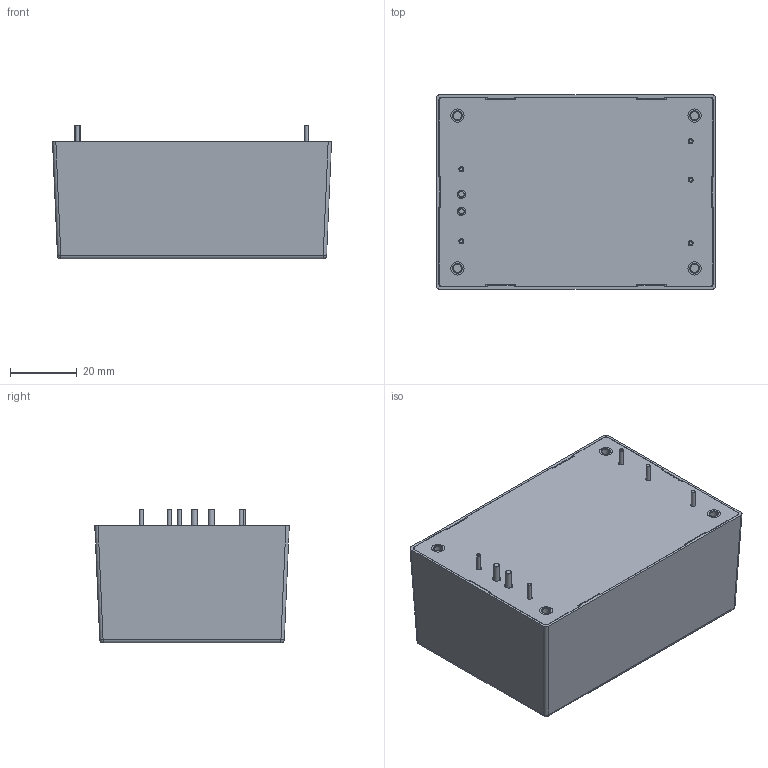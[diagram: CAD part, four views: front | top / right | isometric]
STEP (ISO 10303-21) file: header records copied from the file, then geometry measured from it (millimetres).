
FILE_DESCRIPTION(/* description */ (''),/* implementation_level */ '2;1');
FILE_NAME(/* name */ 'D:\Inventor\MQCS100_MQF120\MQCS100.stp',/* time_stamp */ '2022-05-27T14:10:13+08:00',/* author */ ('peter'),/* organization */ (''),/* preprocessor_version */ 'ST-DEVELOPER v15.2',/* originating_system */ 'Autodesk Inventor 2014',/* authorisation */ '');
FILE_SCHEMA (('AUTOMOTIVE_DESIGN { 1 0 10303 214 3 1 1 }'));
Products named in the file (22): TOP CASE _ 3.3 x 2.3 x 1.38 inch; BOT CASE _ 3.3 x 2.3 x 1.38 inch; M3 x 5 mm; PCB _ MQC100; HEATSINK X1; TO-220FP; SCREW PH M3_5mm; HEATSINK X2; TO-220FP_1; TO-220FP_2; SCREW PH M3_4mm; HEATSINK X3; TO-220FP_3; C1; C1_1; Y -- C; MQCS100
Bounding box: 83.5 x 58.2 x 40 mm (x, y, z)
Volume: 89345.3 mm3; surface area: 71560.4 mm2
Topology: 25 solids, 25 shells, 1429 faces, 6742 edges, 8410 vertices
Faces by surface type: plane 1023, cylinder 161, bspline 154, cone 50, torus 37, sphere 4
Full cylindrical faces by diameter (mm): 0.6 x10, 0.8 x4, 1.2 x5, 1.5 x5, 1.8 x2, 2.459 x8, 2.5 x2, 3 x4, 3.2 x4, 3.5 x6, 4 x12, 7 x1, 10.032 x1, 12.414 x1
Entity records: 59768 total; most frequent: CARTESIAN_POINT 17438, DIRECTION 8492, ORIENTED_EDGE 6242, LINE 5540, VECTOR 5540, EDGE_CURVE 3117, TRIMMED_CURVE 2978, VERTEX_POINT 2092
